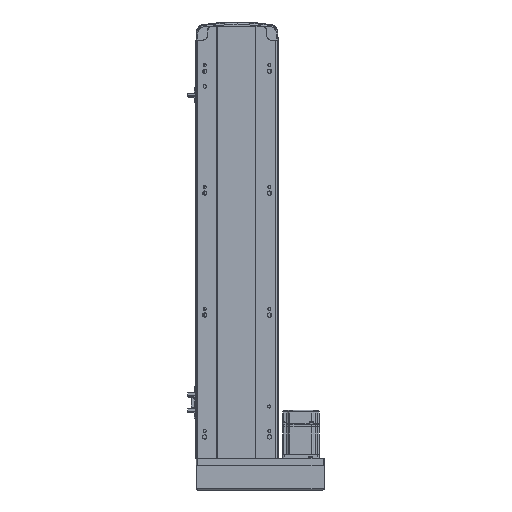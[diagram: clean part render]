
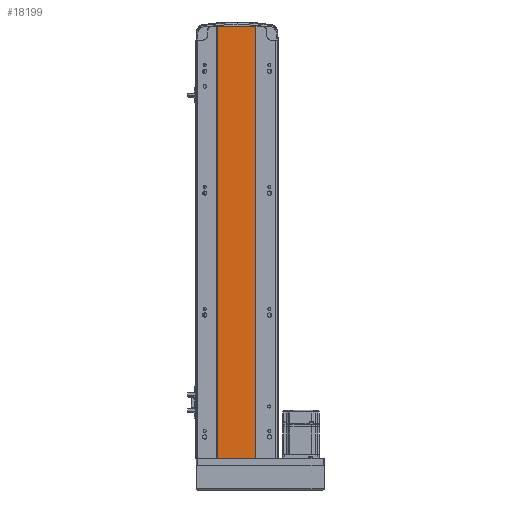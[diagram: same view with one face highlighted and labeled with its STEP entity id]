
A CAD part, front view. The second image highlights one B-rep face of the part: STEP entity #18199.
In plain terms, the highlighted planar face has unit normal (0, -1, 0).
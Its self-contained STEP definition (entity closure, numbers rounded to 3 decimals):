
#533 = PLANE ( 'NONE',  #28194 ) ;
#727 = CARTESIAN_POINT ( 'NONE',  ( 30., 1., 709. ) ) ;
#6007 = ORIENTED_EDGE ( 'NONE', *, *, #49739, .F. ) ;
#9379 = CARTESIAN_POINT ( 'NONE',  ( -32., 1., 709. ) ) ;
#10724 = FACE_OUTER_BOUND ( 'NONE', #29557, .T. ) ;
#15307 = CARTESIAN_POINT ( 'NONE',  ( -32., 1., 0. ) ) ;
#18199 = ADVANCED_FACE ( 'NONE', ( #10724 ), #533, .F. ) ;
#18765 = DIRECTION ( 'NONE',  ( -1., 0., 0. ) ) ;
#19421 = CARTESIAN_POINT ( 'NONE',  ( -32., 1., 709. ) ) ;
#21329 = CARTESIAN_POINT ( 'NONE',  ( 30., 1., 0. ) ) ;
#24147 = VECTOR ( 'NONE', #32238, 1000. ) ;
#24377 = LINE ( 'NONE', #727, #30629 ) ;
#28194 = AXIS2_PLACEMENT_3D ( 'NONE', #9379, #40118, #18765 ) ;
#28434 = ORIENTED_EDGE ( 'NONE', *, *, #33116, .T. ) ;
#29557 = EDGE_LOOP ( 'NONE', ( #55875, #45807, #6007, #28434 ) ) ;
#29633 = VERTEX_POINT ( 'NONE', #32231 ) ;
#30629 = VECTOR ( 'NONE', #44147, 1000. ) ;
#31903 = CARTESIAN_POINT ( 'NONE',  ( 30., 1., 709. ) ) ;
#32231 = CARTESIAN_POINT ( 'NONE',  ( -32., 1., 0. ) ) ;
#32238 = DIRECTION ( 'NONE',  ( 1., 0., 0. ) ) ;
#32808 = VECTOR ( 'NONE', #45538, 1000. ) ;
#33116 = EDGE_CURVE ( 'NONE', #46103, #29633, #41126, .T. ) ;
#34337 = EDGE_CURVE ( 'NONE', #53457, #38595, #24377, .T. ) ;
#34883 = CARTESIAN_POINT ( 'NONE',  ( -32., 1., 709. ) ) ;
#35258 = DIRECTION ( 'NONE',  ( 1., 0., 0. ) ) ;
#36483 = CARTESIAN_POINT ( 'NONE',  ( -32., 1., 709. ) ) ;
#37727 = VECTOR ( 'NONE', #35258, 1000. ) ;
#38023 = EDGE_CURVE ( 'NONE', #29633, #38595, #38649, .T. ) ;
#38595 = VERTEX_POINT ( 'NONE', #21329 ) ;
#38649 = LINE ( 'NONE', #15307, #24147 ) ;
#40118 = DIRECTION ( 'NONE',  ( 0., 1., 0. ) ) ;
#40524 = LINE ( 'NONE', #34883, #37727 ) ;
#41126 = LINE ( 'NONE', #36483, #32808 ) ;
#44147 = DIRECTION ( 'NONE',  ( 0., 0., -1. ) ) ;
#45538 = DIRECTION ( 'NONE',  ( 0., 0., -1. ) ) ;
#45807 = ORIENTED_EDGE ( 'NONE', *, *, #34337, .F. ) ;
#46103 = VERTEX_POINT ( 'NONE', #19421 ) ;
#49739 = EDGE_CURVE ( 'NONE', #46103, #53457, #40524, .T. ) ;
#53457 = VERTEX_POINT ( 'NONE', #31903 ) ;
#55875 = ORIENTED_EDGE ( 'NONE', *, *, #38023, .T. ) ;
